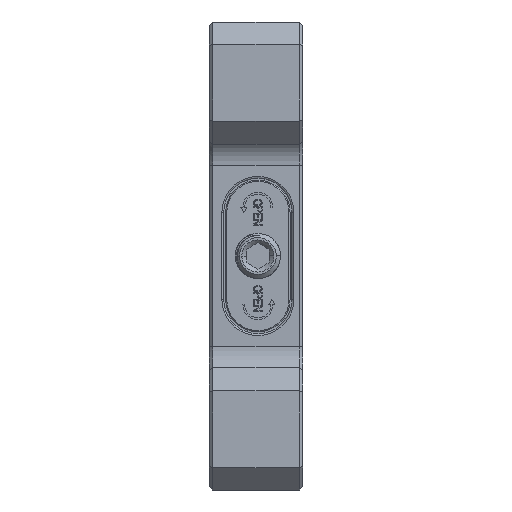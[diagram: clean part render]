
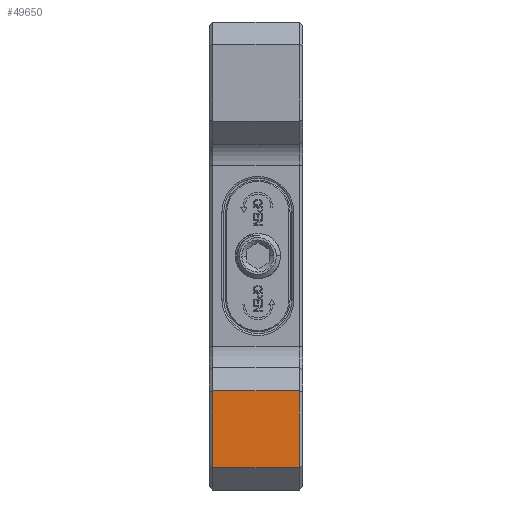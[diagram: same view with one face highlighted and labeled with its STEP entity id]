
A CAD part, left-side view. The second image highlights one B-rep face of the part: STEP entity #49650.
In plain terms, the highlighted planar face has unit normal (-1, 0, 0).
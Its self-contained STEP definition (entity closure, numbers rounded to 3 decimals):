
#16989=DIRECTION('',(0.,0.,1.));
#16990=VECTOR('',#16989,20.5);
#16991=CARTESIAN_POINT('',(-62.5,24.,-56.5));
#16992=LINE('',#16991,#16990);
#16993=DIRECTION('',(0.,-1.,0.));
#16994=VECTOR('',#16993,23.);
#16995=CARTESIAN_POINT('',(-62.5,24.,-36.));
#16996=LINE('',#16995,#16994);
#16997=DIRECTION('',(0.,0.,-1.));
#16998=VECTOR('',#16997,20.5);
#16999=CARTESIAN_POINT('',(-62.5,1.,-36.));
#17000=LINE('',#16999,#16998);
#17001=DIRECTION('',(0.,-1.,0.));
#17002=VECTOR('',#17001,23.);
#17003=CARTESIAN_POINT('',(-62.5,24.,-56.5));
#17004=LINE('',#17003,#17002);
#22525=CARTESIAN_POINT('',(-62.5,24.,-56.5));
#22526=VERTEX_POINT('',#22525);
#22527=CARTESIAN_POINT('',(-62.5,24.,-36.));
#22528=VERTEX_POINT('',#22527);
#22595=CARTESIAN_POINT('',(-62.5,1.,-36.));
#22596=VERTEX_POINT('',#22595);
#22599=CARTESIAN_POINT('',(-62.5,1.,-56.5));
#22600=VERTEX_POINT('',#22599);
#49636=CARTESIAN_POINT('',(-62.5,25.,-62.));
#49637=DIRECTION('',(-1.,0.,0.));
#49638=DIRECTION('',(0.,0.,1.));
#49639=AXIS2_PLACEMENT_3D('',#49636,#49637,#49638);
#49640=PLANE('',#49639);
#49641=ORIENTED_EDGE('',*,*,#49627,.T.);
#49643=ORIENTED_EDGE('',*,*,#49642,.T.);
#49645=ORIENTED_EDGE('',*,*,#49644,.T.);
#49647=ORIENTED_EDGE('',*,*,#49646,.F.);
#49648=EDGE_LOOP('',(#49641,#49643,#49645,#49647));
#49649=FACE_OUTER_BOUND('',#49648,.F.);
#49650=ADVANCED_FACE('',(#49649),#49640,.T.);
#49627=EDGE_CURVE('',#22526,#22528,#16992,.T.);
#49642=EDGE_CURVE('',#22528,#22596,#16996,.T.);
#49644=EDGE_CURVE('',#22596,#22600,#17000,.T.);
#49646=EDGE_CURVE('',#22526,#22600,#17004,.T.);
